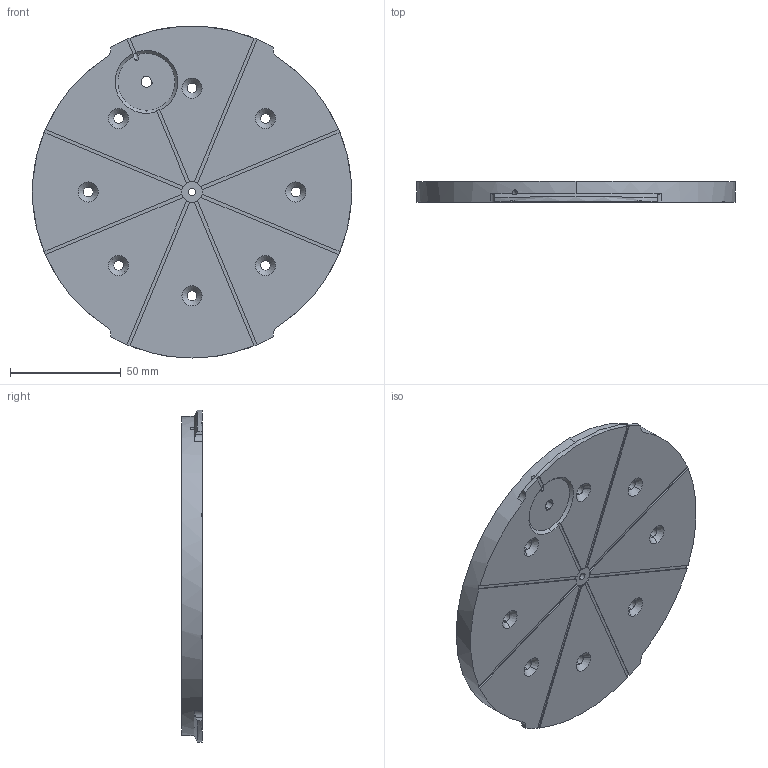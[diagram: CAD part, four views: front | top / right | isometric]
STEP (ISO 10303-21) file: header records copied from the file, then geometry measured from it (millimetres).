
FILE_DESCRIPTION (( 'STEP AP214' ), '1' );
FILE_NAME ('0020-79093_äèñê ïëàñòèê.STEP', '2026-03-23T09:31:31', ( '' ), ( '' ), 'SwSTEP 2.0', 'SolidWorks 2022', '' );
FILE_SCHEMA (( 'AUTOMOTIVE_DESIGN' ));
Length unit declared in the file: millimetre
Products named in the file (1): 0020-79093_диск пластик
Bounding box: 144.35 x 9.28 x 150.2 mm (x, y, z)
Volume: 103807 mm3; surface area: 41964.7 mm2
Topology: 1 solids, 1 shells, 136 faces, 370 edges, 242 vertices
Faces by surface type: cylinder 56, plane 50, cone 30
Entity records: 4621 total; most frequent: CARTESIAN_POINT 883, DIRECTION 809, ORIENTED_EDGE 740, EDGE_CURVE 370, AXIS2_PLACEMENT_3D 324, VERTEX_POINT 242, CIRCLE 187, EDGE_LOOP 164
